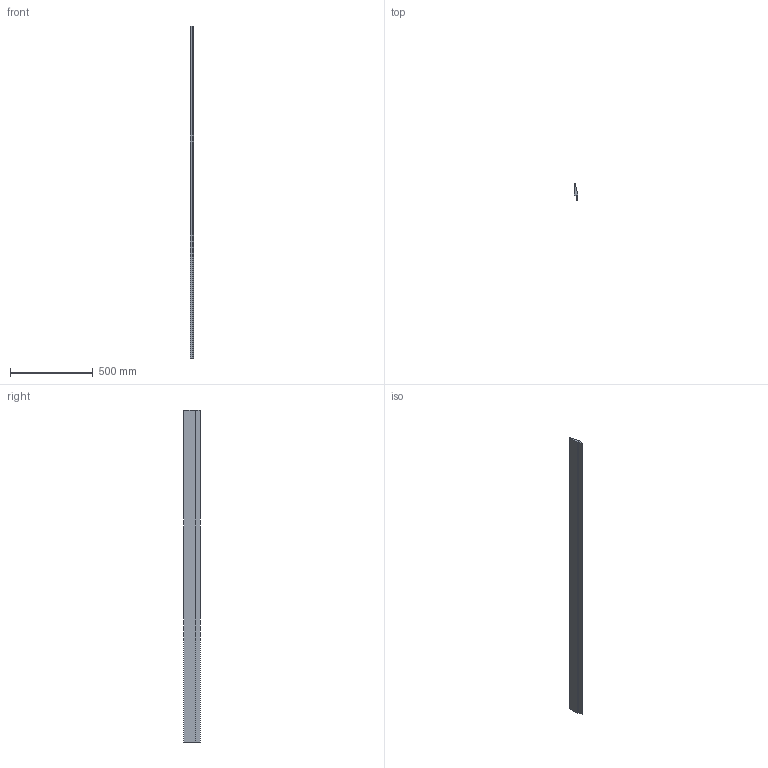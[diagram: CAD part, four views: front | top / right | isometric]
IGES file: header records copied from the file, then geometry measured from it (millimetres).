
Start section: SolidWorks IGES file using analytic representation for surfaces
Global section: file name: C:\Users\Cesare\Desktop\Mardom_Do_Wyslania_22_02_2018\Studio_Rygalik_Vivid_3D_22_02_2018\IGS\F1_C1_C2.IGS; native system: SolidWorks 2017; preprocessor: SolidWorks 2017; author: Cesare; date: 180222.105120; units: millimetre
Bounding box: 21.95 x 100 x 2000 mm (x, y, z)
Surface area: 450338 mm2 (no closed solid volume)
Topology: 0 solids, 0 shells, 12 faces, 112 edges, 142 vertices
Faces by surface type: bspline 9, revolution 3
